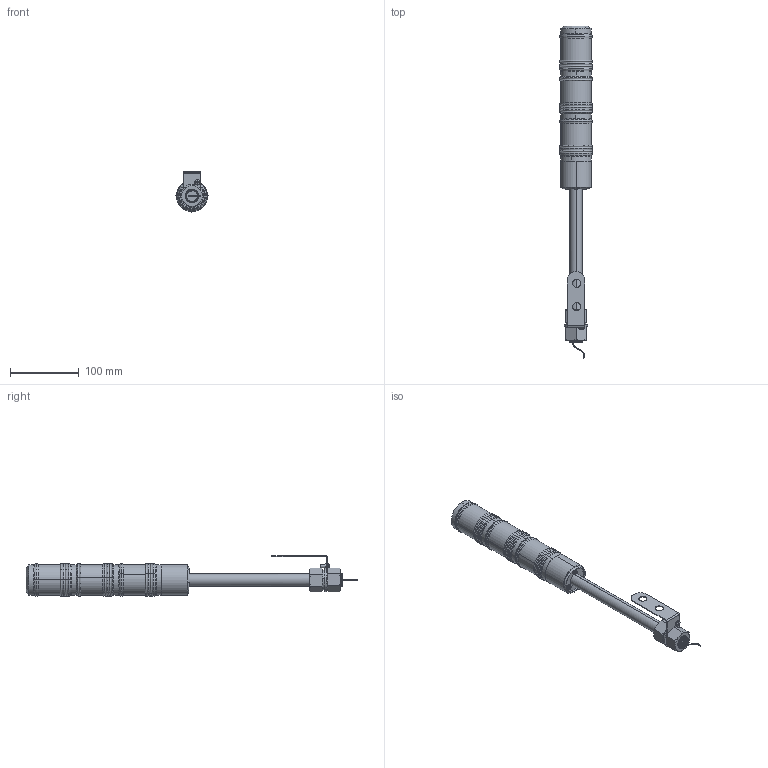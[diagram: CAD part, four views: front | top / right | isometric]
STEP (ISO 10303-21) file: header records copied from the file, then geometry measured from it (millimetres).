
FILE_DESCRIPTION (( 'STEP AP203' ), '1' );
FILE_NAME ('3D 沓麧錪MT45-RYG24.STEP', '2019-05-10T09:34:25', ( '' ), ( '' ), 'SwSTEP 2.0', 'SolidWorks 2015', '' );
FILE_SCHEMA (( 'CONFIG_CONTROL_DESIGN' ));
Length unit declared in the file: millimetre
Products named in the file (21): 驽腧  鲡弪_00; êðàñíàÿ_00; pan head cross recess screw_din_ISO 7045 - M3 x 12 - Z --- 12N; ëàìïà_çåëåíàÿ îðàíæåâàÿ_00; çåëåíûé öâåò_00; pan head cross recess screw_din_ISO 7045 - M3 x 4 - Z --- 4N; pan head cross recess screw_din_ISO 7045 - M4 x 10 - Z --- 10N; curved spring lock washer_din_Spring washer DIN 128 - A3; 扰鍙欙樥燲00; ëàìïà_çåëåíàÿ_00; plain washer 6902 type abc_din_DIN 6902-A2.75; plain washer 7349 heavy_din_DIN 7349-3.2-St; hex thin nut gradeb_din_Hexagon Nut ISO 4036 - M4 - N; 3D 沓麧錪MT45-RYG24; 闃膼瘔_00; hex nut gradec_din_Hexagon Nut ISO 4034 - M20 - N; êðàñíûé öâåò_00; curved spring lock washer_din_Spring washer DIN 128 - A18; plain washer grade a_din_Washer DIN 125 - A 19; 耱嚯铄 觐朦鲱_00; âåðõíÿÿ êðûøêà_00
Assembly tree (29 placements, depth 2):
  3D 沓麧錪MT45-RYG24
    闃膼瘔_00
    扰鍙欙樥燲00
    curved spring lock washer_din_Spring washer DIN 128 - A18
    plain washer grade a_din_Washer DIN 125 - A 19
    hex nut gradec_din_Hexagon Nut ISO 4034 - M20 - N  x2
    pan head cross recess screw_din_ISO 7045 - M4 x 10 - Z --- 10N
    hex thin nut gradeb_din_Hexagon Nut ISO 4036 - M4 - N
    plain washer 6902 type abc_din_DIN 6902-A2.75  x3
    curved spring lock washer_din_Spring washer DIN 128 - A3  x3
    pan head cross recess screw_din_ISO 7045 - M3 x 12 - Z --- 12N  x3
    耱嚯铄 觐朦鲱_00  x3
    çåëåíûé öâåò_00
    驽腧  鲡弪_00
    êðàñíûé öâåò_00
    âåðõíÿÿ êðûøêà_00
    plain washer 7349 heavy_din_DIN 7349-3.2-St
    pan head cross recess screw_din_ISO 7045 - M3 x 4 - Z --- 4N
    ëàìïà_çåëåíàÿ_00
    ëàìïà_çåëåíàÿ îðàíæåâàÿ_00
    êðàñíàÿ_00
Bounding box: 46.99 x 483.71 x 58.5 mm (x, y, z)
Volume: 150463.6 mm3; surface area: 137539.7 mm2
Topology: 29 solids, 29 shells, 1125 faces, 2784 edges, 1730 vertices
Faces by surface type: plane 497, cylinder 324, torus 192, cone 94, sphere 10, bspline 8
Entity records: 34952 total; most frequent: CARTESIAN_POINT 8888, DIRECTION 5203, ORIENTED_EDGE 4848, EDGE_CURVE 2424, AXIS2_PLACEMENT_3D 1960, VERTEX_POINT 1520, VECTOR 1283, LINE 1283
